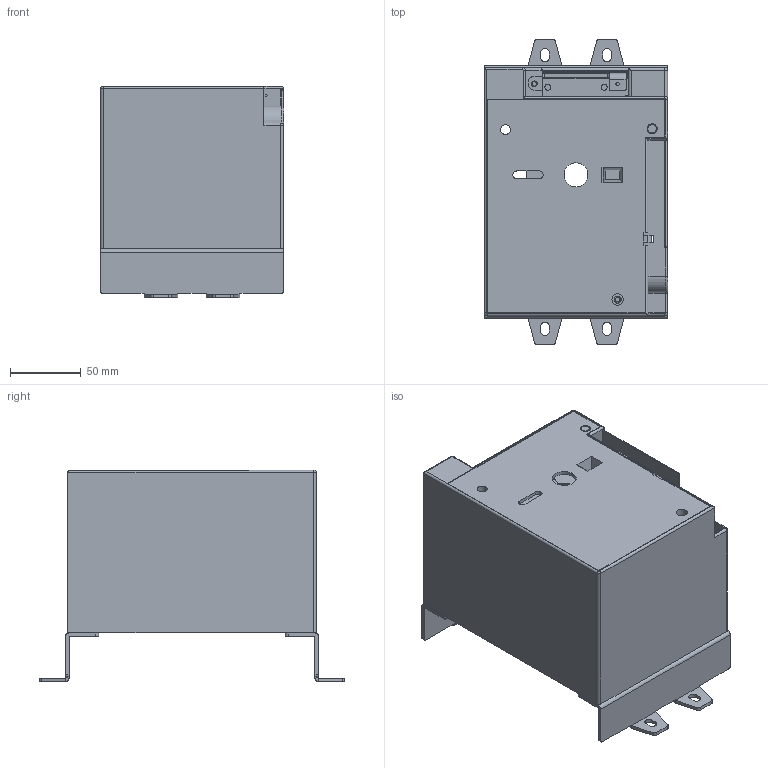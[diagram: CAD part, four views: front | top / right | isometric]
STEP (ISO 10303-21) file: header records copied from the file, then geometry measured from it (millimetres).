
FILE_DESCRIPTION (( 'STEP AP214' ), '1' );
FILE_NAME ('TGM1NE-CD2-400-630.STEP', '2025-12-11T10:17:21', ( '' ), ( '' ), 'SwSTEP 2.0', 'SolidWorks 2024', '' );
FILE_SCHEMA (( 'AUTOMOTIVE_DESIGN' ));
Length unit declared in the file: millimetre
Products named in the file (7): TGM1N-400-630_____1.STEP; TGM1N-630______A.STEP; TGM1NE-CD2-400-630; CD2400A_______1.STEP; CM1-400L _____________1.STEP; TGM1N-630_____1.STEP; TGM1NE-CD2-400-630.STEP
Assembly tree (7 placements, depth 3):
  TGM1NE-CD2-400-630
    TGM1NE-CD2-400-630.STEP
      CM1-400L _____________1.STEP  x2
      TGM1N-630______A.STEP
      CD2400A_______1.STEP
      TGM1N-400-630_____1.STEP
      TGM1N-630_____1.STEP
Bounding box: 130 x 216.4 x 149.8 mm (x, y, z)
Volume: 373293.1 mm3; surface area: 279161.2 mm2
Topology: 6 solids, 6 shells, 1155 faces, 3133 edges, 2068 vertices
Faces by surface type: plane 646, bspline 321, cylinder 169, cone 10, torus 8, sphere 1
Entity records: 46514 total; most frequent: CARTESIAN_POINT 22940, ORIENTED_EDGE 5350, DIRECTION 3867, EDGE_CURVE 2675, VECTOR 1813, LINE 1813, VERTEX_POINT 1766, EDGE_LOOP 1119
